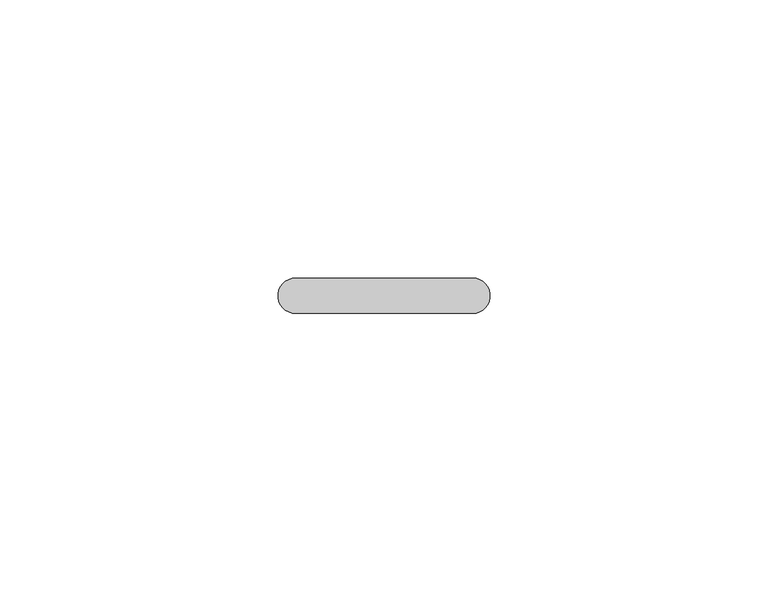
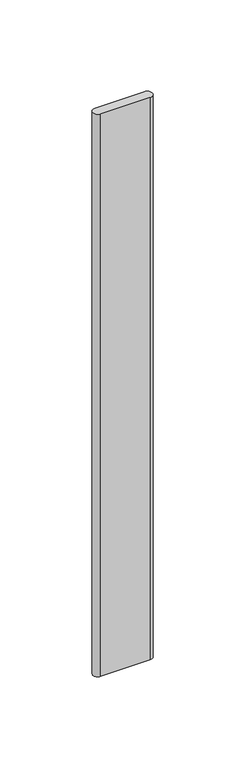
"""IFC4 building model written with IfcOpenShell, lengths in millimetres: proxy geometry, Durabond Generic Model Insulation Adhesive Flat : Durabond Generic Model Insulation Adhesive Flat."""

from ifc_helpers import new_model, si_unit, point, frame_2d, origin, origin_with_axes, place, context, project, spatial, polyline, circle_curve, trimmed, segment, composite_curve, outline, extrude, source, transform, mapped, element, save


def generic_models_724a5e66(model_context):
    return source(origin(), model_context, "Body", "SweptSolid", [
        extrude(outline(composite_curve([segment(polyline([(15.875, -3.175), (-15.875, -3.175)]), True, "CONTINUOUS"), segment(trimmed(circle_curve(frame_2d((-15.875, 0.0)), 3.175), [point((-15.875, -3.175))], [point((-15.875, 3.175))], False, "CARTESIAN"), True, "CONTINUOUS"), segment(polyline([(-15.875, 3.175), (15.875, 3.175)]), True, "CONTINUOUS"), segment(trimmed(circle_curve(frame_2d((15.875, 0.0)), 3.175), [point((15.875, 3.175))], [point((15.875, -3.175))], False, "CARTESIAN"), True, "CONTINUOUS")], self_intersect=False)), origin_with_axes(), (0.0, 0.0, 1.0), 381.0),
    ])


if __name__ == "__main__":
    model = new_model("IFC4")
    model_context = context("Model", 3, world=origin())
    ifc_project = project(units=[si_unit("LENGTHUNIT", "METRE", prefix="MILLI")], contexts=[model_context])
    site = spatial("IfcSite", under=ifc_project)
    building = spatial("IfcBuilding", under=site)
    placement = place(None, origin())
    generic_models_shape = generic_models_724a5e66(model_context)
    element("IfcBuildingElementProxy", 1, Name="Durabond Generic Model Insulation Adhesive Flat : Durabond Generic Model Insulation Adhesive Flat", ObjectType="Durabond Generic Model Insulation Adhesive Flat : Durabond Generic Model Insulation Adhesive Flat", at=placement, inside=building, context=model_context, shape_type="MappedRepresentation", body=[
        mapped(generic_models_shape, transform((0.0, 0.0, 0.0), x_axis=(1.0, 0.0, 0.0), y_axis=(0.0, 1.0, 0.0), z_axis=(0.0, 0.0, 1.0))),
    ])
    save(model, "model.ifc")
